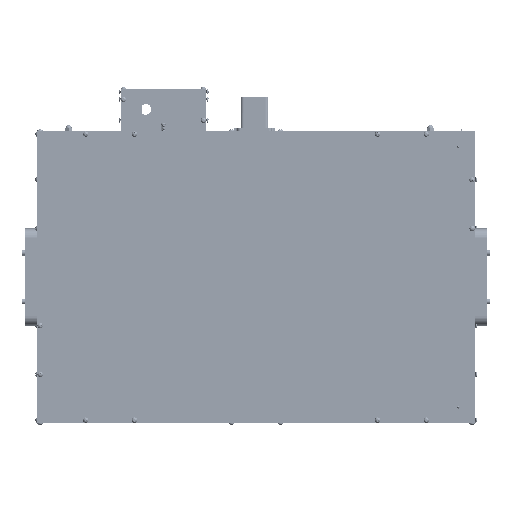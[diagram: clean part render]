
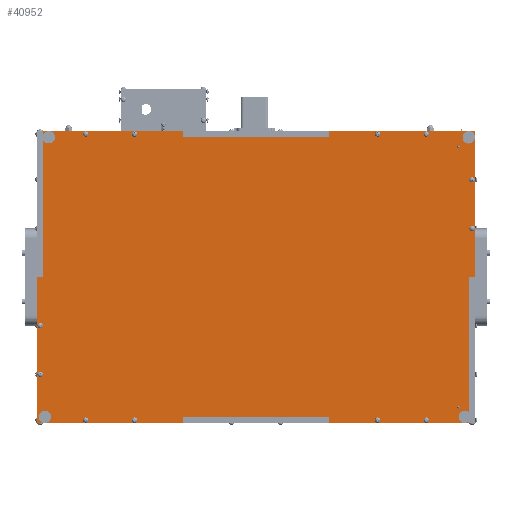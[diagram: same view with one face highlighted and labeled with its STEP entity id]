
A CAD part, front view. The second image highlights one B-rep face of the part: STEP entity #40952.
In plain terms, the highlighted planar face has unit normal (0, -1, 0).
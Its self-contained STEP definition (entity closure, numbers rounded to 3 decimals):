
#3068=FACE_BOUND('',#8791,.T.);
#3069=FACE_BOUND('',#8792,.T.);
#3070=FACE_BOUND('',#8793,.T.);
#3071=FACE_BOUND('',#8794,.T.);
#3072=FACE_BOUND('',#8795,.T.);
#3073=FACE_BOUND('',#8796,.T.);
#3074=FACE_BOUND('',#8797,.T.);
#3075=FACE_BOUND('',#8798,.T.);
#3076=FACE_BOUND('',#8799,.T.);
#3077=FACE_BOUND('',#8800,.T.);
#3078=FACE_BOUND('',#8801,.T.);
#3079=FACE_BOUND('',#8802,.T.);
#3080=FACE_BOUND('',#8803,.T.);
#3081=FACE_BOUND('',#8804,.T.);
#3803=CIRCLE('',#44250,1.25);
#3805=CIRCLE('',#44253,1.25);
#3807=CIRCLE('',#44256,1.25);
#3809=CIRCLE('',#44259,1.25);
#3811=CIRCLE('',#44262,1.25);
#3813=CIRCLE('',#44265,1.25);
#3815=CIRCLE('',#44268,1.25);
#3817=CIRCLE('',#44271,1.25);
#3819=CIRCLE('',#44274,1.25);
#3821=CIRCLE('',#44277,1.25);
#3823=CIRCLE('',#44280,1.25);
#3825=CIRCLE('',#44283,1.25);
#3827=CIRCLE('',#44286,1.25);
#3829=CIRCLE('',#44289,1.25);
#6463=FACE_OUTER_BOUND('',#8790,.T.);
#8790=EDGE_LOOP('',(#30287,#30288,#30289,#30290,#30291,#30292,#30293,#30294,
#30295,#30296,#30297,#30298,#30299,#30300,#30301,#30302));
#8791=EDGE_LOOP('',(#30303));
#8792=EDGE_LOOP('',(#30304));
#8793=EDGE_LOOP('',(#30305));
#8794=EDGE_LOOP('',(#30306));
#8795=EDGE_LOOP('',(#30307));
#8796=EDGE_LOOP('',(#30308));
#8797=EDGE_LOOP('',(#30309));
#8798=EDGE_LOOP('',(#30310));
#8799=EDGE_LOOP('',(#30311));
#8800=EDGE_LOOP('',(#30312));
#8801=EDGE_LOOP('',(#30313));
#8802=EDGE_LOOP('',(#30314));
#8803=EDGE_LOOP('',(#30315));
#8804=EDGE_LOOP('',(#30316));
#11527=LINE('',#79701,#14507);
#11530=LINE('',#79707,#14510);
#11534=LINE('',#79714,#14514);
#11549=LINE('',#79745,#14529);
#11552=LINE('',#79750,#14532);
#11553=LINE('',#79753,#14533);
#11555=LINE('',#79757,#14535);
#11558=LINE('',#79763,#14538);
#11560=LINE('',#79767,#14540);
#11562=LINE('',#79771,#14542);
#11563=LINE('',#79773,#14543);
#11564=LINE('',#79775,#14544);
#11565=LINE('',#79777,#14545);
#11566=LINE('',#79778,#14546);
#11567=LINE('',#79779,#14547);
#11568=LINE('',#79780,#14548);
#14507=VECTOR('',#49927,10.);
#14510=VECTOR('',#49932,10.);
#14514=VECTOR('',#49938,10.);
#14529=VECTOR('',#49957,10.);
#14532=VECTOR('',#49962,10.);
#14533=VECTOR('',#49965,10.);
#14535=VECTOR('',#49969,10.);
#14538=VECTOR('',#49974,10.);
#14540=VECTOR('',#49978,10.);
#14542=VECTOR('',#49982,10.);
#14543=VECTOR('',#49983,10.);
#14544=VECTOR('',#49984,10.);
#14545=VECTOR('',#49985,10.);
#14546=VECTOR('',#49986,10.);
#14547=VECTOR('',#49987,10.);
#14548=VECTOR('',#49988,10.);
#17817=VERTEX_POINT('',#79611);
#17819=VERTEX_POINT('',#79617);
#17821=VERTEX_POINT('',#79623);
#17823=VERTEX_POINT('',#79629);
#17825=VERTEX_POINT('',#79635);
#17827=VERTEX_POINT('',#79641);
#17829=VERTEX_POINT('',#79647);
#17831=VERTEX_POINT('',#79653);
#17833=VERTEX_POINT('',#79659);
#17835=VERTEX_POINT('',#79665);
#17837=VERTEX_POINT('',#79671);
#17839=VERTEX_POINT('',#79677);
#17841=VERTEX_POINT('',#79683);
#17843=VERTEX_POINT('',#79689);
#17847=VERTEX_POINT('',#79698);
#17848=VERTEX_POINT('',#79700);
#17849=VERTEX_POINT('',#79704);
#17852=VERTEX_POINT('',#79712);
#17865=VERTEX_POINT('',#79742);
#17866=VERTEX_POINT('',#79744);
#17867=VERTEX_POINT('',#79748);
#17868=VERTEX_POINT('',#79752);
#17869=VERTEX_POINT('',#79756);
#17870=VERTEX_POINT('',#79760);
#17871=VERTEX_POINT('',#79762);
#17872=VERTEX_POINT('',#79766);
#17873=VERTEX_POINT('',#79770);
#17874=VERTEX_POINT('',#79772);
#17875=VERTEX_POINT('',#79774);
#17876=VERTEX_POINT('',#79776);
#22440=EDGE_CURVE('',#17817,#17817,#3803,.T.);
#22443=EDGE_CURVE('',#17819,#17819,#3805,.T.);
#22446=EDGE_CURVE('',#17821,#17821,#3807,.T.);
#22449=EDGE_CURVE('',#17823,#17823,#3809,.T.);
#22452=EDGE_CURVE('',#17825,#17825,#3811,.T.);
#22455=EDGE_CURVE('',#17827,#17827,#3813,.T.);
#22458=EDGE_CURVE('',#17829,#17829,#3815,.T.);
#22461=EDGE_CURVE('',#17831,#17831,#3817,.T.);
#22464=EDGE_CURVE('',#17833,#17833,#3819,.T.);
#22467=EDGE_CURVE('',#17835,#17835,#3821,.T.);
#22470=EDGE_CURVE('',#17837,#17837,#3823,.T.);
#22473=EDGE_CURVE('',#17839,#17839,#3825,.T.);
#22476=EDGE_CURVE('',#17841,#17841,#3827,.T.);
#22479=EDGE_CURVE('',#17843,#17843,#3829,.T.);
#22484=EDGE_CURVE('',#17848,#17847,#11527,.T.);
#22487=EDGE_CURVE('',#17847,#17849,#11530,.T.);
#22491=EDGE_CURVE('',#17852,#17849,#11534,.T.);
#22506=EDGE_CURVE('',#17866,#17865,#11549,.T.);
#22509=EDGE_CURVE('',#17865,#17867,#11552,.T.);
#22510=EDGE_CURVE('',#17868,#17866,#11553,.T.);
#22512=EDGE_CURVE('',#17868,#17869,#11555,.T.);
#22515=EDGE_CURVE('',#17871,#17870,#11558,.T.);
#22517=EDGE_CURVE('',#17872,#17871,#11560,.T.);
#22519=EDGE_CURVE('',#17873,#17852,#11562,.T.);
#22520=EDGE_CURVE('',#17873,#17874,#11563,.T.);
#22521=EDGE_CURVE('',#17874,#17875,#11564,.T.);
#22522=EDGE_CURVE('',#17875,#17876,#11565,.T.);
#22523=EDGE_CURVE('',#17872,#17876,#11566,.T.);
#22524=EDGE_CURVE('',#17869,#17870,#11567,.T.);
#22525=EDGE_CURVE('',#17848,#17867,#11568,.T.);
#30287=ORIENTED_EDGE('',*,*,#22487,.T.);
#30288=ORIENTED_EDGE('',*,*,#22491,.F.);
#30289=ORIENTED_EDGE('',*,*,#22519,.F.);
#30290=ORIENTED_EDGE('',*,*,#22520,.T.);
#30291=ORIENTED_EDGE('',*,*,#22521,.T.);
#30292=ORIENTED_EDGE('',*,*,#22522,.T.);
#30293=ORIENTED_EDGE('',*,*,#22523,.F.);
#30294=ORIENTED_EDGE('',*,*,#22517,.T.);
#30295=ORIENTED_EDGE('',*,*,#22515,.T.);
#30296=ORIENTED_EDGE('',*,*,#22524,.F.);
#30297=ORIENTED_EDGE('',*,*,#22512,.F.);
#30298=ORIENTED_EDGE('',*,*,#22510,.T.);
#30299=ORIENTED_EDGE('',*,*,#22506,.T.);
#30300=ORIENTED_EDGE('',*,*,#22509,.T.);
#30301=ORIENTED_EDGE('',*,*,#22525,.F.);
#30302=ORIENTED_EDGE('',*,*,#22484,.T.);
#30303=ORIENTED_EDGE('',*,*,#22440,.T.);
#30304=ORIENTED_EDGE('',*,*,#22443,.T.);
#30305=ORIENTED_EDGE('',*,*,#22446,.T.);
#30306=ORIENTED_EDGE('',*,*,#22449,.T.);
#30307=ORIENTED_EDGE('',*,*,#22452,.T.);
#30308=ORIENTED_EDGE('',*,*,#22455,.T.);
#30309=ORIENTED_EDGE('',*,*,#22458,.T.);
#30310=ORIENTED_EDGE('',*,*,#22461,.T.);
#30311=ORIENTED_EDGE('',*,*,#22464,.T.);
#30312=ORIENTED_EDGE('',*,*,#22467,.T.);
#30313=ORIENTED_EDGE('',*,*,#22470,.T.);
#30314=ORIENTED_EDGE('',*,*,#22473,.T.);
#30315=ORIENTED_EDGE('',*,*,#22476,.T.);
#30316=ORIENTED_EDGE('',*,*,#22479,.T.);
#39738=PLANE('',#44301);
#40952=ADVANCED_FACE('',(#6463,#3068,#3069,#3070,#3071,#3072,#3073,#3074,
#3075,#3076,#3077,#3078,#3079,#3080,#3081),#39738,.F.);
#44250=AXIS2_PLACEMENT_3D('',#79612,#49827,#49828);
#44253=AXIS2_PLACEMENT_3D('',#79618,#49834,#49835);
#44256=AXIS2_PLACEMENT_3D('',#79624,#49841,#49842);
#44259=AXIS2_PLACEMENT_3D('',#79630,#49848,#49849);
#44262=AXIS2_PLACEMENT_3D('',#79636,#49855,#49856);
#44265=AXIS2_PLACEMENT_3D('',#79642,#49862,#49863);
#44268=AXIS2_PLACEMENT_3D('',#79648,#49869,#49870);
#44271=AXIS2_PLACEMENT_3D('',#79654,#49876,#49877);
#44274=AXIS2_PLACEMENT_3D('',#79660,#49883,#49884);
#44277=AXIS2_PLACEMENT_3D('',#79666,#49890,#49891);
#44280=AXIS2_PLACEMENT_3D('',#79672,#49897,#49898);
#44283=AXIS2_PLACEMENT_3D('',#79678,#49904,#49905);
#44286=AXIS2_PLACEMENT_3D('',#79684,#49911,#49912);
#44289=AXIS2_PLACEMENT_3D('',#79690,#49918,#49919);
#44301=AXIS2_PLACEMENT_3D('',#79769,#49980,#49981);
#49827=DIRECTION('center_axis',(0.,1.,0.));
#49828=DIRECTION('ref_axis',(1.,0.,0.));
#49834=DIRECTION('center_axis',(0.,1.,0.));
#49835=DIRECTION('ref_axis',(1.,0.,0.));
#49841=DIRECTION('center_axis',(0.,1.,0.));
#49842=DIRECTION('ref_axis',(1.,0.,0.));
#49848=DIRECTION('center_axis',(0.,1.,0.));
#49849=DIRECTION('ref_axis',(1.,0.,0.));
#49855=DIRECTION('center_axis',(0.,1.,0.));
#49856=DIRECTION('ref_axis',(1.,0.,0.));
#49862=DIRECTION('center_axis',(0.,1.,0.));
#49863=DIRECTION('ref_axis',(1.,0.,0.));
#49869=DIRECTION('center_axis',(0.,1.,0.));
#49870=DIRECTION('ref_axis',(1.,0.,0.));
#49876=DIRECTION('center_axis',(0.,1.,0.));
#49877=DIRECTION('ref_axis',(1.,0.,0.));
#49883=DIRECTION('center_axis',(0.,1.,0.));
#49884=DIRECTION('ref_axis',(1.,0.,0.));
#49890=DIRECTION('center_axis',(0.,1.,0.));
#49891=DIRECTION('ref_axis',(1.,0.,0.));
#49897=DIRECTION('center_axis',(0.,1.,0.));
#49898=DIRECTION('ref_axis',(1.,0.,0.));
#49904=DIRECTION('center_axis',(0.,1.,0.));
#49905=DIRECTION('ref_axis',(1.,0.,0.));
#49911=DIRECTION('center_axis',(0.,1.,0.));
#49912=DIRECTION('ref_axis',(1.,0.,0.));
#49918=DIRECTION('center_axis',(0.,1.,0.));
#49919=DIRECTION('ref_axis',(1.,0.,0.));
#49927=DIRECTION('',(0.,0.,-1.));
#49932=DIRECTION('',(-1.,0.,0.));
#49938=DIRECTION('',(0.,0.,1.));
#49957=DIRECTION('',(-1.,0.,0.));
#49962=DIRECTION('',(0.,0.,1.));
#49965=DIRECTION('',(0.,0.,-1.));
#49969=DIRECTION('',(1.,0.,0.));
#49974=DIRECTION('',(1.,0.,0.));
#49978=DIRECTION('',(0.,0.,1.));
#49980=DIRECTION('center_axis',(0.,1.,0.));
#49981=DIRECTION('ref_axis',(1.,0.,0.));
#49982=DIRECTION('',(-1.,0.,0.));
#49983=DIRECTION('',(0.,0.,1.));
#49984=DIRECTION('',(1.,0.,0.));
#49985=DIRECTION('',(0.,0.,-1.));
#49986=DIRECTION('',(-1.,0.,0.));
#49987=DIRECTION('',(0.,0.,-1.));
#49988=DIRECTION('',(1.,0.,0.));
#79611=CARTESIAN_POINT('',(206.75,-225.,-134.));
#79612=CARTESIAN_POINT('Origin',(208.,-225.,-134.));
#79617=CARTESIAN_POINT('',(206.75,-225.,134.));
#79618=CARTESIAN_POINT('Origin',(208.,-225.,134.));
#79623=CARTESIAN_POINT('',(123.75,-225.,-147.));
#79624=CARTESIAN_POINT('Origin',(125.,-225.,-147.));
#79629=CARTESIAN_POINT('',(-176.25,-225.,147.));
#79630=CARTESIAN_POINT('Origin',(-175.,-225.,147.));
#79635=CARTESIAN_POINT('',(173.75,-225.,147.));
#79636=CARTESIAN_POINT('Origin',(175.,-225.,147.));
#79641=CARTESIAN_POINT('',(-126.25,-225.,-147.));
#79642=CARTESIAN_POINT('Origin',(-125.,-225.,-147.));
#79647=CARTESIAN_POINT('',(173.75,-225.,-147.));
#79648=CARTESIAN_POINT('Origin',(175.,-225.,-147.));
#79653=CARTESIAN_POINT('',(-126.25,-225.,147.));
#79654=CARTESIAN_POINT('Origin',(-125.,-225.,147.));
#79659=CARTESIAN_POINT('',(123.75,-225.,147.));
#79660=CARTESIAN_POINT('Origin',(125.,-225.,147.));
#79665=CARTESIAN_POINT('',(-176.25,-225.,-147.));
#79666=CARTESIAN_POINT('Origin',(-175.,-225.,-147.));
#79671=CARTESIAN_POINT('',(220.75,-225.,100.));
#79672=CARTESIAN_POINT('Origin',(222.,-225.,100.));
#79677=CARTESIAN_POINT('',(-223.25,-225.,-100.));
#79678=CARTESIAN_POINT('Origin',(-222.,-225.,-100.));
#79683=CARTESIAN_POINT('',(220.75,-225.,50.));
#79684=CARTESIAN_POINT('Origin',(222.,-225.,50.));
#79689=CARTESIAN_POINT('',(-223.25,-225.,-50.));
#79690=CARTESIAN_POINT('Origin',(-222.,-225.,-50.));
#79698=CARTESIAN_POINT('',(-219.,-225.,0.));
#79700=CARTESIAN_POINT('',(-219.,-225.,150.));
#79701=CARTESIAN_POINT('',(-219.,-225.,0.));
#79704=CARTESIAN_POINT('',(-225.,-225.,0.));
#79707=CARTESIAN_POINT('',(-112.5,-225.,0.));
#79712=CARTESIAN_POINT('',(-225.,-225.,-150.));
#79714=CARTESIAN_POINT('',(-225.,-225.,-150.));
#79742=CARTESIAN_POINT('',(-75.,-225.,144.));
#79744=CARTESIAN_POINT('',(75.,-225.,144.));
#79745=CARTESIAN_POINT('',(0.,-225.,144.));
#79748=CARTESIAN_POINT('',(-75.,-225.,150.));
#79750=CARTESIAN_POINT('',(-75.,-225.,72.));
#79752=CARTESIAN_POINT('',(75.,-225.,150.));
#79753=CARTESIAN_POINT('',(75.,-225.,72.));
#79756=CARTESIAN_POINT('',(225.,-225.,150.));
#79757=CARTESIAN_POINT('',(-225.,-225.,150.));
#79760=CARTESIAN_POINT('',(225.,-225.,0.));
#79762=CARTESIAN_POINT('',(219.,-225.,0.));
#79763=CARTESIAN_POINT('',(112.5,-225.,0.));
#79766=CARTESIAN_POINT('',(219.,-225.,-150.));
#79767=CARTESIAN_POINT('',(219.,-225.,0.));
#79769=CARTESIAN_POINT('Origin',(0.,-225.,0.));
#79770=CARTESIAN_POINT('',(-75.,-225.,-150.));
#79771=CARTESIAN_POINT('',(225.,-225.,-150.));
#79772=CARTESIAN_POINT('',(-75.,-225.,-144.));
#79773=CARTESIAN_POINT('',(-75.,-225.,-75.));
#79774=CARTESIAN_POINT('',(75.,-225.,-144.));
#79775=CARTESIAN_POINT('',(0.,-225.,-144.));
#79776=CARTESIAN_POINT('',(75.,-225.,-150.));
#79777=CARTESIAN_POINT('',(75.,-225.,-75.));
#79778=CARTESIAN_POINT('',(225.,-225.,-150.));
#79779=CARTESIAN_POINT('',(225.,-225.,150.));
#79780=CARTESIAN_POINT('',(-225.,-225.,150.));
